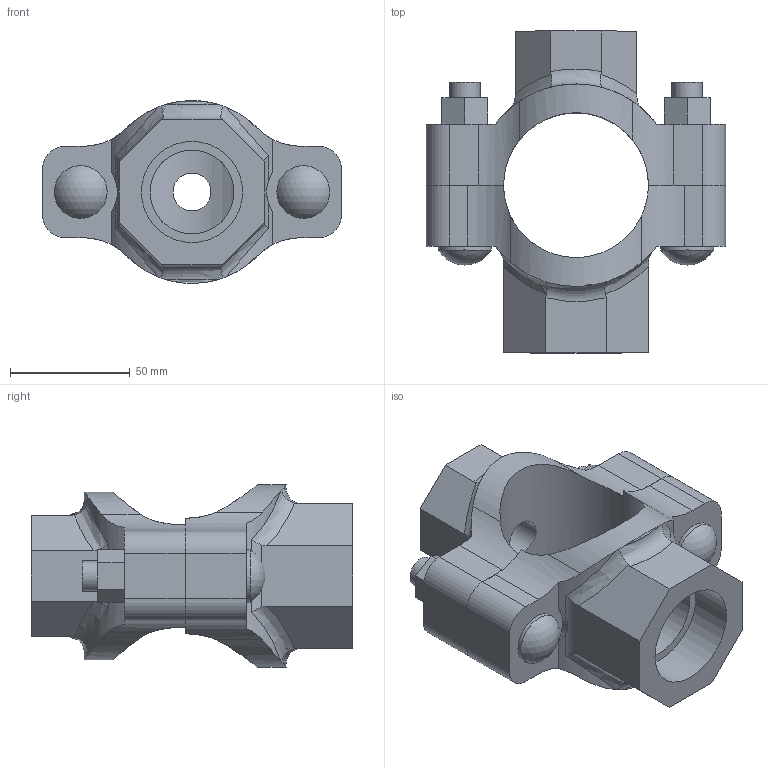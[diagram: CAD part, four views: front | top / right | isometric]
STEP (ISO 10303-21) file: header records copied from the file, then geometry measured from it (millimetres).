
FILE_DESCRIPTION(/* description */ ('VIC MECH-T BRANCH OUTLET CROSS STYLE 920N (THD)','CAx-IF Rec.Pracs.---Representation and Presentation of Product Manufacturing Information (PMI)---4.0---2014-10-13'),/* implementation_level */ '2;1');
FILE_NAME(/* name */ 'C:\Users\Vjadhav\AppData\Roaming\Autodesk\ApplicationPlugins\Back Up\Victaulic_IPS_Mechanical-Cross Outlet_Style 920N (FPT)\Victaulic_IPS_Mechanical-Cross Outlet_02.0x0.5x01.25 (50x15x32).stp',/* time_stamp */ '2020-08-06T18:55:50+05:00',/* author */ ('Vjadhav'),/* organization */ ('Victaulic'),/* preprocessor_version */ 'ST-DEVELOPER v17.2',/* originating_system */ 'Autodesk Inventor 2019',/* authorisation */ '');
FILE_SCHEMA (('AP242_MANAGED_MODEL_BASED_3D_ENGINEERING_MIM_LF { 1 0 10303 442 1 1 4 }'));
Length unit declared in the file: inch
Products named in the file (3): 920NT-02.0x0.5x01.25; 920NT-02.0x0.5; 920NT-02.0x01.25
Assembly tree (2 placements, depth 2):
  920NT-02.0x0.5x01.25
    920NT-02.0x0.5
    920NT-02.0x01.25
Bounding box: 124.71 x 134.11 x 76.17 mm (x, y, z)
Volume: 325678.6 mm3; surface area: 70939.1 mm2
Topology: 2 solids, 2 shells, 137 faces, 368 edges, 248 vertices
Faces by surface type: plane 68, cylinder 55, bspline 8, torus 4, sphere 2
Full cylindrical faces by diameter (mm): 12.7 x4, 15.799 x1, 21.336 x1, 21.982 x2, 34.925 x1, 42.164 x1
Entity records: 5290 total; most frequent: CARTESIAN_POINT 1651, ORIENTED_EDGE 736, DIRECTION 660, EDGE_CURVE 368, VERTEX_POINT 248, AXIS2_PLACEMENT_3D 236, LINE 188, VECTOR 188
